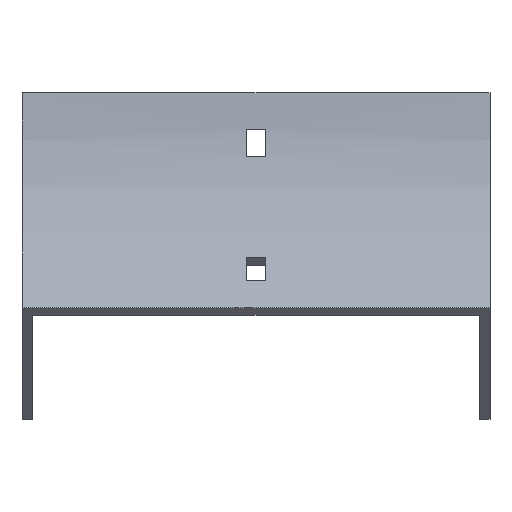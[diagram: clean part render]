
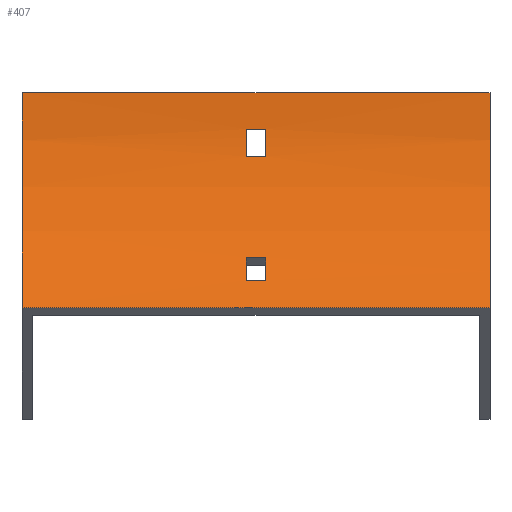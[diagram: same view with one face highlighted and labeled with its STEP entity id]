
A CAD part, front view. The second image highlights one B-rep face of the part: STEP entity #407.
In plain terms, the highlighted cylindrical face has radius 100 mm (diameter 200 mm), a partial arc.
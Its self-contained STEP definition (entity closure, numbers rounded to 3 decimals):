
#1 = CARTESIAN_POINT ( 'NONE',  ( 3.25, -16.017, -54.285 ) ) ;
#5 = CYLINDRICAL_SURFACE ( 'NONE', #23, 100. ) ;
#23 = AXIS2_PLACEMENT_3D ( 'NONE', #803, #1061, #351 ) ;
#41 = LINE ( 'NONE', #660, #413 ) ;
#43 = VECTOR ( 'NONE', #589, 1000. ) ;
#50 = VERTEX_POINT ( 'NONE', #1009 ) ;
#59 = ORIENTED_EDGE ( 'NONE', *, *, #278, .F. ) ;
#68 = LINE ( 'NONE', #861, #753 ) ;
#80 = CIRCLE ( 'NONE', #736, 100. ) ;
#84 = EDGE_CURVE ( 'NONE', #661, #376, #80, .T. ) ;
#112 = DIRECTION ( 'NONE',  ( 0., 0., 1. ) ) ;
#115 = DIRECTION ( 'NONE',  ( -1., 0., 0. ) ) ;
#126 = VERTEX_POINT ( 'NONE', #724 ) ;
#127 = VECTOR ( 'NONE', #228, 1000. ) ;
#151 = CARTESIAN_POINT ( 'NONE',  ( 77., -29.289, -70.711 ) ) ;
#159 = CARTESIAN_POINT ( 'NONE',  ( 77., -2.23, -21. ) ) ;
#166 = DIRECTION ( 'NONE',  ( 1., 0., 0. ) ) ;
#170 = EDGE_CURVE ( 'NONE', #414, #359, #622, .T. ) ;
#173 = CARTESIAN_POINT ( 'NONE',  ( -77., -29.289, -70.711 ) ) ;
#183 = ORIENTED_EDGE ( 'NONE', *, *, #84, .F. ) ;
#213 = CARTESIAN_POINT ( 'NONE',  ( -3.25, -16.017, -54.285 ) ) ;
#226 = CARTESIAN_POINT ( 'NONE',  ( -3.25, -100., 0. ) ) ;
#228 = DIRECTION ( 'NONE',  ( -1., 0., 0. ) ) ;
#234 = LINE ( 'NONE', #696, #127 ) ;
#244 = ORIENTED_EDGE ( 'NONE', *, *, #648, .T. ) ;
#245 = DIRECTION ( 'NONE',  ( -1., 0., 0. ) ) ;
#249 = FACE_BOUND ( 'NONE', #474, .T. ) ;
#258 = DIRECTION ( 'NONE',  ( 0., 0., 1. ) ) ;
#274 = CIRCLE ( 'NONE', #633, 100. ) ;
#278 = EDGE_CURVE ( 'NONE', #126, #700, #274, .T. ) ;
#285 = ORIENTED_EDGE ( 'NONE', *, *, #170, .F. ) ;
#303 = DIRECTION ( 'NONE',  ( 0., 0., 1. ) ) ;
#320 = CARTESIAN_POINT ( 'NONE',  ( 3.25, -100., 0. ) ) ;
#329 = DIRECTION ( 'NONE',  ( -1., 0., 0. ) ) ;
#340 = CARTESIAN_POINT ( 'NONE',  ( 3.25, -0.723, -12. ) ) ;
#349 = VECTOR ( 'NONE', #329, 1000. ) ;
#351 = DIRECTION ( 'NONE',  ( 0., 0., 1. ) ) ;
#359 = VERTEX_POINT ( 'NONE', #1 ) ;
#376 = VERTEX_POINT ( 'NONE', #448 ) ;
#381 = LINE ( 'NONE', #913, #528 ) ;
#385 = ORIENTED_EDGE ( 'NONE', *, *, #709, .F. ) ;
#387 = CARTESIAN_POINT ( 'NONE',  ( 77., -100., 0. ) ) ;
#407 = ADVANCED_FACE ( 'NONE', ( #893, #249, #810 ), #5, .F. ) ;
#413 = VECTOR ( 'NONE', #115, 1000. ) ;
#414 = VERTEX_POINT ( 'NONE', #721 ) ;
#417 = DIRECTION ( 'NONE',  ( -1., 0., 0. ) ) ;
#419 = CARTESIAN_POINT ( 'NONE',  ( 77., -16.017, -54.285 ) ) ;
#438 = DIRECTION ( 'NONE',  ( 0., 0., 1. ) ) ;
#448 = CARTESIAN_POINT ( 'NONE',  ( -3.25, -21.315, -61.714 ) ) ;
#474 = EDGE_LOOP ( 'NONE', ( #548, #499, #611, #905 ) ) ;
#489 = CIRCLE ( 'NONE', #828, 100. ) ;
#490 = CARTESIAN_POINT ( 'NONE',  ( -77., -100., 0. ) ) ;
#499 = ORIENTED_EDGE ( 'NONE', *, *, #1008, .T. ) ;
#528 = VECTOR ( 'NONE', #997, 1000. ) ;
#546 = CIRCLE ( 'NONE', #1027, 100. ) ;
#548 = ORIENTED_EDGE ( 'NONE', *, *, #759, .T. ) ;
#589 = DIRECTION ( 'NONE',  ( -1., 0., 0. ) ) ;
#592 = LINE ( 'NONE', #419, #349 ) ;
#598 = EDGE_CURVE ( 'NONE', #126, #652, #41, .T. ) ;
#611 = ORIENTED_EDGE ( 'NONE', *, *, #929, .T. ) ;
#622 = CIRCLE ( 'NONE', #719, 100. ) ;
#633 = AXIS2_PLACEMENT_3D ( 'NONE', #387, #934, #112 ) ;
#648 = EDGE_CURVE ( 'NONE', #652, #1020, #546, .T. ) ;
#652 = VERTEX_POINT ( 'NONE', #667 ) ;
#660 = CARTESIAN_POINT ( 'NONE',  ( 77., 0., 0. ) ) ;
#661 = VERTEX_POINT ( 'NONE', #213 ) ;
#662 = ORIENTED_EDGE ( 'NONE', *, *, #1067, .F. ) ;
#667 = CARTESIAN_POINT ( 'NONE',  ( -77., 0., 0. ) ) ;
#692 = EDGE_CURVE ( 'NONE', #1028, #833, #489, .T. ) ;
#696 = CARTESIAN_POINT ( 'NONE',  ( 77., -29.289, -70.711 ) ) ;
#700 = VERTEX_POINT ( 'NONE', #151 ) ;
#705 = LINE ( 'NONE', #159, #43 ) ;
#709 = EDGE_CURVE ( 'NONE', #359, #661, #592, .T. ) ;
#719 = AXIS2_PLACEMENT_3D ( 'NONE', #977, #166, #258 ) ;
#721 = CARTESIAN_POINT ( 'NONE',  ( 3.25, -21.315, -61.714 ) ) ;
#724 = CARTESIAN_POINT ( 'NONE',  ( 77., 0., 0. ) ) ;
#736 = AXIS2_PLACEMENT_3D ( 'NONE', #226, #417, #948 ) ;
#753 = VECTOR ( 'NONE', #950, 1000. ) ;
#759 = EDGE_CURVE ( 'NONE', #833, #1024, #705, .T. ) ;
#782 = CARTESIAN_POINT ( 'NONE',  ( 3.25, -2.23, -21. ) ) ;
#789 = CARTESIAN_POINT ( 'NONE',  ( -3.25, -100., 0. ) ) ;
#802 = CARTESIAN_POINT ( 'NONE',  ( -3.25, -2.23, -21. ) ) ;
#803 = CARTESIAN_POINT ( 'NONE',  ( 77., -100., 0. ) ) ;
#810 = FACE_BOUND ( 'NONE', #930, .T. ) ;
#828 = AXIS2_PLACEMENT_3D ( 'NONE', #320, #245, #1034 ) ;
#833 = VERTEX_POINT ( 'NONE', #782 ) ;
#835 = EDGE_LOOP ( 'NONE', ( #244, #910, #59, #1036 ) ) ;
#861 = CARTESIAN_POINT ( 'NONE',  ( 77., -0.723, -12. ) ) ;
#869 = CIRCLE ( 'NONE', #884, 100. ) ;
#884 = AXIS2_PLACEMENT_3D ( 'NONE', #789, #1134, #438 ) ;
#893 = FACE_OUTER_BOUND ( 'NONE', #835, .T. ) ;
#905 = ORIENTED_EDGE ( 'NONE', *, *, #692, .T. ) ;
#910 = ORIENTED_EDGE ( 'NONE', *, *, #982, .F. ) ;
#913 = CARTESIAN_POINT ( 'NONE',  ( 77., -21.315, -61.714 ) ) ;
#929 = EDGE_CURVE ( 'NONE', #50, #1028, #68, .T. ) ;
#930 = EDGE_LOOP ( 'NONE', ( #183, #385, #285, #662 ) ) ;
#934 = DIRECTION ( 'NONE',  ( -1., 0., 0. ) ) ;
#948 = DIRECTION ( 'NONE',  ( 0., 0., -1. ) ) ;
#950 = DIRECTION ( 'NONE',  ( 1., 0., 0. ) ) ;
#977 = CARTESIAN_POINT ( 'NONE',  ( 3.25, -100., 0. ) ) ;
#982 = EDGE_CURVE ( 'NONE', #700, #1020, #234, .T. ) ;
#997 = DIRECTION ( 'NONE',  ( 1., 0., 0. ) ) ;
#1008 = EDGE_CURVE ( 'NONE', #1024, #50, #869, .T. ) ;
#1009 = CARTESIAN_POINT ( 'NONE',  ( -3.25, -0.723, -12. ) ) ;
#1011 = DIRECTION ( 'NONE',  ( -1., 0., 0. ) ) ;
#1020 = VERTEX_POINT ( 'NONE', #173 ) ;
#1024 = VERTEX_POINT ( 'NONE', #802 ) ;
#1027 = AXIS2_PLACEMENT_3D ( 'NONE', #490, #1011, #303 ) ;
#1028 = VERTEX_POINT ( 'NONE', #340 ) ;
#1034 = DIRECTION ( 'NONE',  ( 0., 0., -1. ) ) ;
#1036 = ORIENTED_EDGE ( 'NONE', *, *, #598, .T. ) ;
#1061 = DIRECTION ( 'NONE',  ( -1., 0., 0. ) ) ;
#1067 = EDGE_CURVE ( 'NONE', #376, #414, #381, .T. ) ;
#1134 = DIRECTION ( 'NONE',  ( 1., 0., 0. ) ) ;
